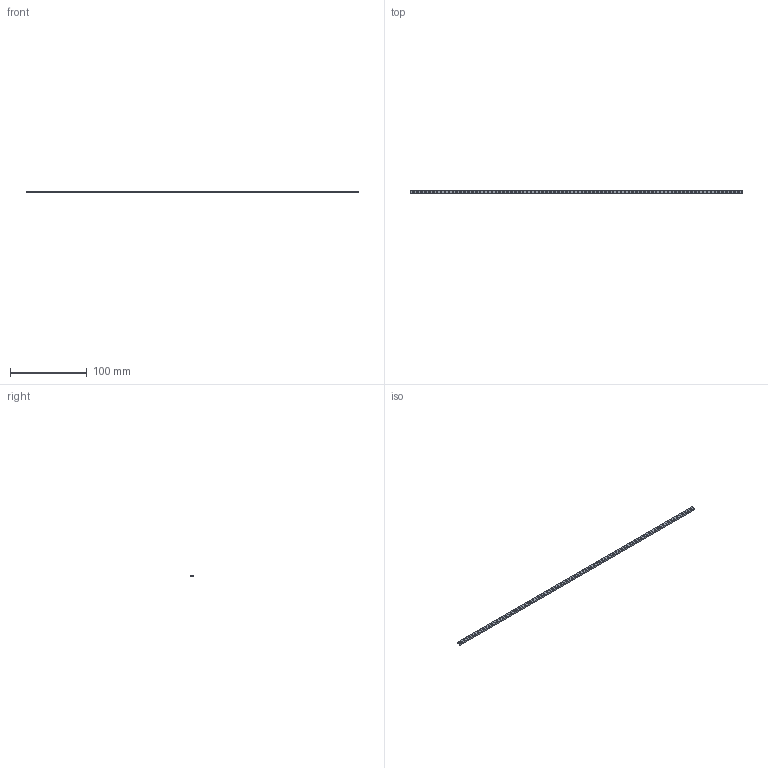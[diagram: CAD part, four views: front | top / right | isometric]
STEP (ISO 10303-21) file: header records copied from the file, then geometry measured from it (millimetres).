
FILE_DESCRIPTION(('STEP AP214'),'1');
FILE_NAME('34561384.stp','2019-03-12T18:02:30',('TraceParts'),('TraceParts S.A.'),'Spatial InterOp 3D',' ',' ');
FILE_SCHEMA(('automotive_design'));
Length unit declared in the file: millimetre
Products named in the file (1): 34561384
Bounding box: 431.3 x 5 x 2 mm (x, y, z)
Volume: 3750.5 mm3; surface area: 6579.1 mm2
Topology: 1 solids, 1 shells, 184 faces, 546 edges, 364 vertices
Faces by surface type: cylinder 172, plane 12
Entity records: 6725 total; most frequent: DIRECTION 1260, CARTESIAN_POINT 1095, ORIENTED_EDGE 1092, EDGE_CURVE 546, AXIS2_PLACEMENT_3D 529, VERTEX_POINT 364, EDGE_LOOP 352, CIRCLE 344
